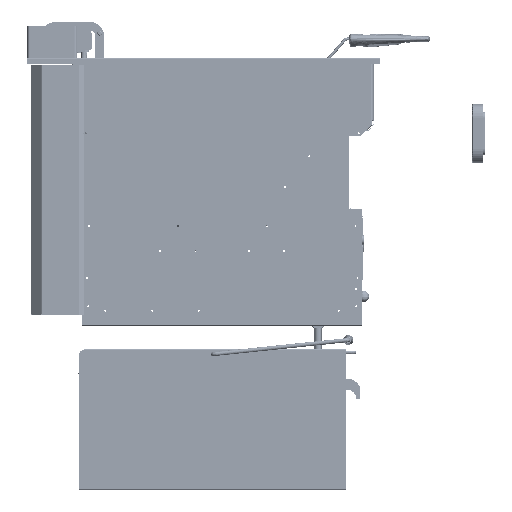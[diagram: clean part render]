
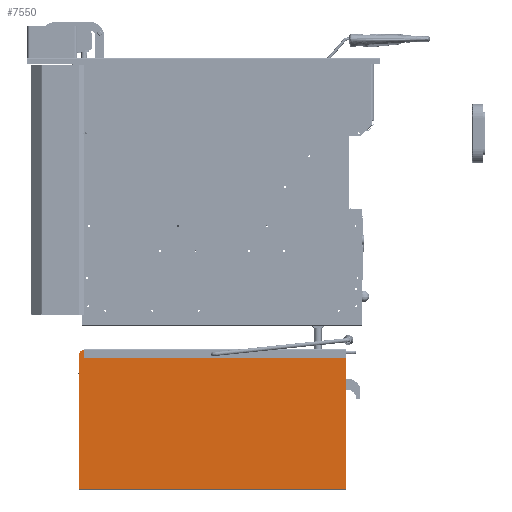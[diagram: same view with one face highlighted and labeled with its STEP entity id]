
A CAD part, left-side view. The second image highlights one B-rep face of the part: STEP entity #7550.
In plain terms, the highlighted planar face has unit normal (-1, 0, 0).
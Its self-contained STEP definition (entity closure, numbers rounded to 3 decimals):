
#2782=FACE_BOUND('',#18208,.T.);
#7550=ADVANCED_FACE('',(#12641,#2782),#84386,.T.);
#12641=FACE_OUTER_BOUND('',#18207,.T.);
#18207=EDGE_LOOP('',(#42836,#42837,#42838,#42839,#42840,#42841,#42842));
#18208=EDGE_LOOP('',(#42843,#42844));
#42836=ORIENTED_EDGE('',*,*,#56717,.F.);
#42837=ORIENTED_EDGE('',*,*,#56796,.F.);
#42838=ORIENTED_EDGE('',*,*,#56710,.F.);
#42839=ORIENTED_EDGE('',*,*,#56718,.F.);
#42840=ORIENTED_EDGE('',*,*,#56719,.F.);
#42841=ORIENTED_EDGE('',*,*,#56720,.F.);
#42842=ORIENTED_EDGE('',*,*,#56721,.F.);
#42843=ORIENTED_EDGE('',*,*,#56691,.T.);
#42844=ORIENTED_EDGE('',*,*,#56752,.F.);
#56691=EDGE_CURVE('',#82179,#82180,#69607,.T.);
#56710=EDGE_CURVE('',#82199,#82201,#65145,.T.);
#56717=EDGE_CURVE('',#82207,#82208,#65152,.T.);
#56718=EDGE_CURVE('',#82206,#82199,#65153,.T.);
#56719=EDGE_CURVE('',#82209,#82206,#65154,.T.);
#56720=EDGE_CURVE('',#82210,#82209,#65155,.T.);
#56721=EDGE_CURVE('',#82208,#82210,#65156,.T.);
#56752=EDGE_CURVE('',#82179,#82180,#69621,.T.);
#56796=EDGE_CURVE('',#82201,#82207,#69635,.T.);
#65145=B_SPLINE_CURVE_WITH_KNOTS('',1,(#256413,#256414),.UNSPECIFIED.,.F.,
 .F.,(2,2),(0.,227.),.UNSPECIFIED.);
#65152=B_SPLINE_CURVE_WITH_KNOTS('',1,(#256427,#256428),.UNSPECIFIED.,.F.,
 .F.,(2,2),(-0.5,0.),.UNSPECIFIED.);
#65153=B_SPLINE_CURVE_WITH_KNOTS('',1,(#256429,#256430),.UNSPECIFIED.,.F.,
 .F.,(2,2),(-455.,0.),.UNSPECIFIED.);
#65154=B_SPLINE_CURVE_WITH_KNOTS('',1,(#256431,#256432),.UNSPECIFIED.,.F.,
 .F.,(2,2),(-236.4,0.),.UNSPECIFIED.);
#65155=B_SPLINE_CURVE_WITH_KNOTS('',1,(#256433,#256434),.UNSPECIFIED.,.F.,
 .F.,(2,2),(-446.5,0.),.UNSPECIFIED.);
#65156=B_SPLINE_CURVE_WITH_KNOTS('',1,(#256435,#256436),.UNSPECIFIED.,.F.,
 .F.,(2,2),(-1.4,0.),.UNSPECIFIED.);
#69607=TRIMMED_CURVE($,#74048,(#256372),(#256373),.T.,.CARTESIAN.);
#69621=TRIMMED_CURVE($,#74062,(#256508),(#256509),.T.,.CARTESIAN.);
#69635=TRIMMED_CURVE($,#74076,(#256610),(#256611),.T.,.CARTESIAN.);
#74048=CIRCLE('',#93916,3.75);
#74062=CIRCLE('',#93930,3.75);
#74076=CIRCLE('',#93944,8.);
#82179=VERTEX_POINT('',#256291);
#82180=VERTEX_POINT('',#256292);
#82199=VERTEX_POINT('',#256311);
#82201=VERTEX_POINT('',#256313);
#82206=VERTEX_POINT('',#256318);
#82207=VERTEX_POINT('',#256319);
#82208=VERTEX_POINT('',#256320);
#82209=VERTEX_POINT('',#256321);
#82210=VERTEX_POINT('',#256322);
#84386=PLANE('',#93872);
#93872=AXIS2_PLACEMENT_3D('',#256243,#106002,$);
#93916=AXIS2_PLACEMENT_3D($,#256371,#106050,#106051);
#93930=AXIS2_PLACEMENT_3D($,#256507,#106078,#106079);
#93944=AXIS2_PLACEMENT_3D($,#256609,#106106,#106107);
#106002=DIRECTION('',(-1.,0.,0.));
#106050=DIRECTION('',(1.,0.,0.));
#106051=DIRECTION('',(0.,-1.,0.));
#106078=DIRECTION('',(-1.,0.,0.));
#106079=DIRECTION('',(0.,-1.,0.));
#106106=DIRECTION('',(1.,0.,0.));
#106107=DIRECTION('',(0.,1.,0.));
#256243=CARTESIAN_POINT('',(-71.,-300.965,377.04));
#256291=CARTESIAN_POINT('',(-71.,-31.715,345.4));
#256292=CARTESIAN_POINT('',(-71.,-24.215,345.4));
#256311=CARTESIAN_POINT('',(-71.,199.535,117.));
#256313=CARTESIAN_POINT('',(-71.,199.535,344.));
#256318=CARTESIAN_POINT('',(-71.,-255.465,117.));
#256319=CARTESIAN_POINT('',(-71.,191.535,352.));
#256320=CARTESIAN_POINT('',(-71.,191.035,352.));
#256321=CARTESIAN_POINT('',(-71.,-255.465,353.4));
#256322=CARTESIAN_POINT('',(-71.,191.035,353.4));
#256371=CARTESIAN_POINT('',(-71.,-27.965,345.4));
#256372=CARTESIAN_POINT('',(-71.,-31.715,345.4));
#256373=CARTESIAN_POINT('',(-71.,-24.215,345.4));
#256413=CARTESIAN_POINT('',(-71.,199.535,117.));
#256414=CARTESIAN_POINT('',(-71.,199.535,344.));
#256427=CARTESIAN_POINT('',(-71.,191.535,352.));
#256428=CARTESIAN_POINT('',(-71.,191.035,352.));
#256429=CARTESIAN_POINT('',(-71.,-255.465,117.));
#256430=CARTESIAN_POINT('',(-71.,199.535,117.));
#256431=CARTESIAN_POINT('',(-71.,-255.465,353.4));
#256432=CARTESIAN_POINT('',(-71.,-255.465,117.));
#256433=CARTESIAN_POINT('',(-71.,191.035,353.4));
#256434=CARTESIAN_POINT('',(-71.,-255.465,353.4));
#256435=CARTESIAN_POINT('',(-71.,191.035,352.));
#256436=CARTESIAN_POINT('',(-71.,191.035,353.4));
#256507=CARTESIAN_POINT('',(-71.,-27.965,345.4));
#256508=CARTESIAN_POINT('',(-71.,-31.715,345.4));
#256509=CARTESIAN_POINT('',(-71.,-24.215,345.4));
#256609=CARTESIAN_POINT('',(-71.,191.535,344.));
#256610=CARTESIAN_POINT('',(-71.,199.535,344.));
#256611=CARTESIAN_POINT('',(-71.,191.535,352.));
